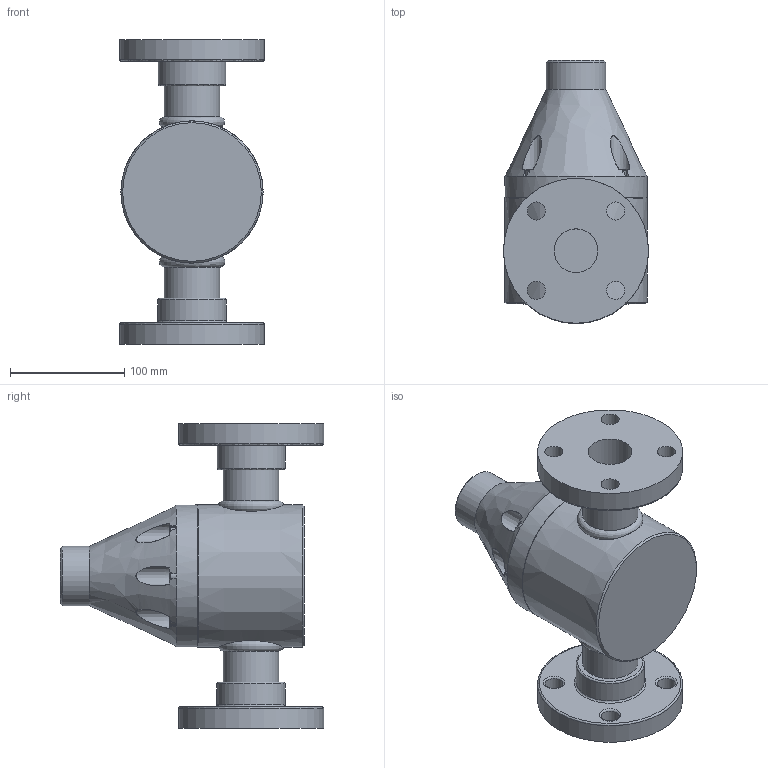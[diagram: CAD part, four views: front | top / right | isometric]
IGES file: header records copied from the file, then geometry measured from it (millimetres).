
Start section: SolidWorks IGES file using analytic representation for surfaces
Global section: file name: F:\Griffco-Valve\Griffco_current-projects\GV_web-files_2015\G Series Flanged\GBP1500-FLNG.IGS; native system: SolidWorks 2014; preprocessor: SolidWorks 2014; author: Dan; date: 160212.042239; units: inch
Bounding box: 127 x 230.5 x 266.7 mm (x, y, z)
Surface area: 193541.7 mm2 (no closed solid volume)
Topology: 0 solids, 0 shells, 189 faces, 872 edges, 822 vertices
Faces by surface type: bspline 131, revolution 58
